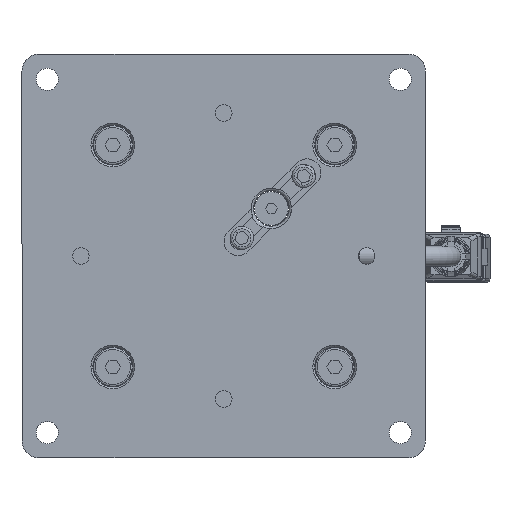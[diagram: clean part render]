
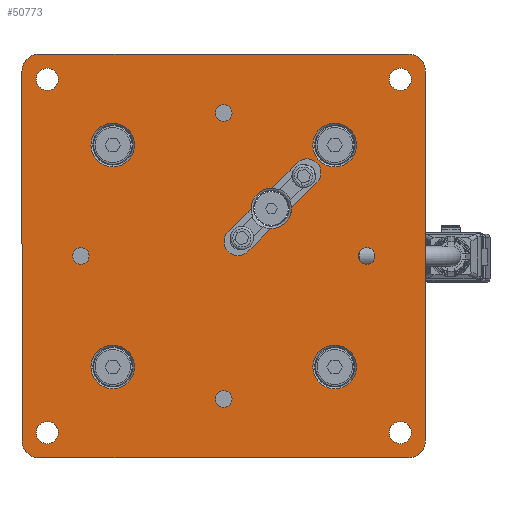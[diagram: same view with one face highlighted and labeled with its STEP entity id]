
A CAD part, top view. The second image highlights one B-rep face of the part: STEP entity #50773.
In plain terms, the highlighted planar face has unit normal (0, 0, 1).
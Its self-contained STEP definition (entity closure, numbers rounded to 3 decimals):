
#1966=CIRCLE('',#53728,6.);
#1992=CIRCLE('',#53758,2.459);
#1993=CIRCLE('',#53759,2.459);
#1994=CIRCLE('',#53760,2.459);
#1995=CIRCLE('',#53761,2.459);
#1996=CIRCLE('',#53762,6.5);
#1997=CIRCLE('',#53763,6.5);
#1998=CIRCLE('',#53764,6.5);
#1999=CIRCLE('',#53765,6.5);
#2000=CIRCLE('',#53766,3.3);
#2001=CIRCLE('',#53767,3.3);
#2002=CIRCLE('',#53768,3.3);
#2003=CIRCLE('',#53769,3.3);
#2004=CIRCLE('',#53770,5.);
#2005=CIRCLE('',#53771,5.);
#2006=CIRCLE('',#53772,5.);
#2007=CIRCLE('',#53773,5.);
#2008=CIRCLE('',#53774,6.);
#2009=CIRCLE('',#53775,4.15);
#2010=CIRCLE('',#53776,4.15);
#6443=ORIENTED_EDGE('',*,*,#17857,.F.);
#6444=ORIENTED_EDGE('',*,*,#17858,.F.);
#6445=ORIENTED_EDGE('',*,*,#17859,.F.);
#6446=ORIENTED_EDGE('',*,*,#17860,.F.);
#6447=ORIENTED_EDGE('',*,*,#17861,.T.);
#6448=ORIENTED_EDGE('',*,*,#17862,.T.);
#6449=ORIENTED_EDGE('',*,*,#17863,.T.);
#6450=ORIENTED_EDGE('',*,*,#17864,.T.);
#6451=ORIENTED_EDGE('',*,*,#17865,.F.);
#6452=ORIENTED_EDGE('',*,*,#17866,.F.);
#6453=ORIENTED_EDGE('',*,*,#17867,.F.);
#6454=ORIENTED_EDGE('',*,*,#17868,.F.);
#6455=ORIENTED_EDGE('',*,*,#17869,.T.);
#6456=ORIENTED_EDGE('',*,*,#17870,.T.);
#6457=ORIENTED_EDGE('',*,*,#17871,.T.);
#6458=ORIENTED_EDGE('',*,*,#17872,.T.);
#6459=ORIENTED_EDGE('',*,*,#17873,.T.);
#6460=ORIENTED_EDGE('',*,*,#17874,.T.);
#6461=ORIENTED_EDGE('',*,*,#17875,.T.);
#6462=ORIENTED_EDGE('',*,*,#17876,.T.);
#6463=ORIENTED_EDGE('',*,*,#17877,.F.);
#6464=ORIENTED_EDGE('',*,*,#17878,.F.);
#6465=ORIENTED_EDGE('',*,*,#17879,.F.);
#6466=ORIENTED_EDGE('',*,*,#17880,.T.);
#6467=ORIENTED_EDGE('',*,*,#17881,.T.);
#6468=ORIENTED_EDGE('',*,*,#17814,.F.);
#6469=ORIENTED_EDGE('',*,*,#17882,.T.);
#6470=ORIENTED_EDGE('',*,*,#17883,.T.);
#17814=EDGE_CURVE('',#23671,#23672,#1966,.T.);
#17857=EDGE_CURVE('',#23711,#23711,#1992,.T.);
#17858=EDGE_CURVE('',#23712,#23712,#1993,.T.);
#17859=EDGE_CURVE('',#23713,#23713,#1994,.T.);
#17860=EDGE_CURVE('',#23714,#23714,#1995,.T.);
#17861=EDGE_CURVE('',#23715,#23715,#1996,.T.);
#17862=EDGE_CURVE('',#23716,#23716,#1997,.T.);
#17863=EDGE_CURVE('',#23717,#23717,#1998,.T.);
#17864=EDGE_CURVE('',#23718,#23718,#1999,.T.);
#17865=EDGE_CURVE('',#23719,#23719,#2000,.T.);
#17866=EDGE_CURVE('',#23720,#23720,#2001,.T.);
#17867=EDGE_CURVE('',#23721,#23721,#2002,.T.);
#17868=EDGE_CURVE('',#23722,#23722,#2003,.T.);
#17869=EDGE_CURVE('',#23723,#23724,#2004,.T.);
#17870=EDGE_CURVE('',#23724,#23725,#27803,.T.);
#17871=EDGE_CURVE('',#23725,#23726,#2005,.T.);
#17872=EDGE_CURVE('',#23726,#23727,#27804,.T.);
#17873=EDGE_CURVE('',#23727,#23728,#2006,.T.);
#17874=EDGE_CURVE('',#23728,#23729,#27805,.T.);
#17875=EDGE_CURVE('',#23729,#23730,#2007,.T.);
#17876=EDGE_CURVE('',#23730,#23723,#27806,.T.);
#17877=EDGE_CURVE('',#23731,#23732,#27807,.T.);
#17878=EDGE_CURVE('',#23733,#23731,#2008,.T.);
#17879=EDGE_CURVE('',#23734,#23733,#27808,.T.);
#17880=EDGE_CURVE('',#23734,#23735,#2009,.T.);
#17881=EDGE_CURVE('',#23735,#23672,#27809,.T.);
#17882=EDGE_CURVE('',#23671,#23736,#27810,.T.);
#17883=EDGE_CURVE('',#23736,#23732,#2010,.T.);
#23671=VERTEX_POINT('',#72271);
#23672=VERTEX_POINT('',#72273);
#23711=VERTEX_POINT('',#72359);
#23712=VERTEX_POINT('',#72361);
#23713=VERTEX_POINT('',#72363);
#23714=VERTEX_POINT('',#72365);
#23715=VERTEX_POINT('',#72367);
#23716=VERTEX_POINT('',#72369);
#23717=VERTEX_POINT('',#72371);
#23718=VERTEX_POINT('',#72373);
#23719=VERTEX_POINT('',#72375);
#23720=VERTEX_POINT('',#72377);
#23721=VERTEX_POINT('',#72379);
#23722=VERTEX_POINT('',#72381);
#23723=VERTEX_POINT('',#72383);
#23724=VERTEX_POINT('',#72384);
#23725=VERTEX_POINT('',#72386);
#23726=VERTEX_POINT('',#72388);
#23727=VERTEX_POINT('',#72390);
#23728=VERTEX_POINT('',#72392);
#23729=VERTEX_POINT('',#72394);
#23730=VERTEX_POINT('',#72396);
#23731=VERTEX_POINT('',#72399);
#23732=VERTEX_POINT('',#72400);
#23733=VERTEX_POINT('',#72402);
#23734=VERTEX_POINT('',#72404);
#23735=VERTEX_POINT('',#72406);
#23736=VERTEX_POINT('',#72409);
#27803=LINE('',#72385,#30858);
#27804=LINE('',#72389,#30859);
#27805=LINE('',#72393,#30860);
#27806=LINE('',#72397,#30861);
#27807=LINE('',#72398,#30862);
#27808=LINE('',#72403,#30863);
#27809=LINE('',#72407,#30864);
#27810=LINE('',#72408,#30865);
#30858=VECTOR('',#59738,1000.);
#30859=VECTOR('',#59741,1000.);
#30860=VECTOR('',#59744,1000.);
#30861=VECTOR('',#59747,1000.);
#30862=VECTOR('',#59748,1000.);
#30863=VECTOR('',#59751,1000.);
#30864=VECTOR('',#59754,1000.);
#30865=VECTOR('',#59755,1000.);
#33680=EDGE_LOOP('',(#6443));
#33681=EDGE_LOOP('',(#6444));
#33682=EDGE_LOOP('',(#6445));
#33683=EDGE_LOOP('',(#6446));
#33684=EDGE_LOOP('',(#6447));
#33685=EDGE_LOOP('',(#6448));
#33686=EDGE_LOOP('',(#6449));
#33687=EDGE_LOOP('',(#6450));
#33688=EDGE_LOOP('',(#6451));
#33689=EDGE_LOOP('',(#6452));
#33690=EDGE_LOOP('',(#6453));
#33691=EDGE_LOOP('',(#6454));
#33692=EDGE_LOOP('',(#6455,#6456,#6457,#6458,#6459,#6460,#6461,#6462));
#33693=EDGE_LOOP('',(#6463,#6464,#6465,#6466,#6467,#6468,#6469,#6470));
#36867=FACE_BOUND('',#33680,.T.);
#36868=FACE_BOUND('',#33681,.T.);
#36869=FACE_BOUND('',#33682,.T.);
#36870=FACE_BOUND('',#33683,.T.);
#36871=FACE_BOUND('',#33684,.T.);
#36872=FACE_BOUND('',#33685,.T.);
#36873=FACE_BOUND('',#33686,.T.);
#36874=FACE_BOUND('',#33687,.T.);
#36875=FACE_BOUND('',#33688,.T.);
#36876=FACE_BOUND('',#33689,.T.);
#36877=FACE_BOUND('',#33690,.T.);
#36878=FACE_BOUND('',#33691,.T.);
#36879=FACE_BOUND('',#33692,.T.);
#36880=FACE_BOUND('',#33693,.T.);
#39874=PLANE('',#53757);
#50773=ADVANCED_FACE('',(#36867,#36868,#36869,#36870,#36871,#36872,#36873,
#36874,#36875,#36876,#36877,#36878,#36879,#36880),#39874,.T.);
#53728=AXIS2_PLACEMENT_3D('',#72272,#59635,#59636);
#53757=AXIS2_PLACEMENT_3D('',#72357,#59710,#59711);
#53758=AXIS2_PLACEMENT_3D('',#72358,#59712,#59713);
#53759=AXIS2_PLACEMENT_3D('',#72360,#59714,#59715);
#53760=AXIS2_PLACEMENT_3D('',#72362,#59716,#59717);
#53761=AXIS2_PLACEMENT_3D('',#72364,#59718,#59719);
#53762=AXIS2_PLACEMENT_3D('',#72366,#59720,#59721);
#53763=AXIS2_PLACEMENT_3D('',#72368,#59722,#59723);
#53764=AXIS2_PLACEMENT_3D('',#72370,#59724,#59725);
#53765=AXIS2_PLACEMENT_3D('',#72372,#59726,#59727);
#53766=AXIS2_PLACEMENT_3D('',#72374,#59728,#59729);
#53767=AXIS2_PLACEMENT_3D('',#72376,#59730,#59731);
#53768=AXIS2_PLACEMENT_3D('',#72378,#59732,#59733);
#53769=AXIS2_PLACEMENT_3D('',#72380,#59734,#59735);
#53770=AXIS2_PLACEMENT_3D('',#72382,#59736,#59737);
#53771=AXIS2_PLACEMENT_3D('',#72387,#59739,#59740);
#53772=AXIS2_PLACEMENT_3D('',#72391,#59742,#59743);
#53773=AXIS2_PLACEMENT_3D('',#72395,#59745,#59746);
#53774=AXIS2_PLACEMENT_3D('',#72401,#59749,#59750);
#53775=AXIS2_PLACEMENT_3D('',#72405,#59752,#59753);
#53776=AXIS2_PLACEMENT_3D('',#72410,#59756,#59757);
#59635=DIRECTION('',(0.,0.,1.));
#59636=DIRECTION('',(1.,0.,0.));
#59710=DIRECTION('',(0.,0.,1.));
#59711=DIRECTION('',(1.,0.,0.));
#59712=DIRECTION('',(0.,0.,1.));
#59713=DIRECTION('',(0.,1.,0.));
#59714=DIRECTION('',(0.,0.,1.));
#59715=DIRECTION('',(0.,1.,0.));
#59716=DIRECTION('',(0.,0.,1.));
#59717=DIRECTION('',(0.,1.,0.));
#59718=DIRECTION('',(0.,0.,1.));
#59719=DIRECTION('',(0.,1.,0.));
#59720=DIRECTION('',(0.,0.,-1.));
#59721=DIRECTION('',(1.,0.,0.));
#59722=DIRECTION('',(0.,0.,-1.));
#59723=DIRECTION('',(1.,0.,0.));
#59724=DIRECTION('',(0.,0.,-1.));
#59725=DIRECTION('',(1.,0.,0.));
#59726=DIRECTION('',(0.,0.,-1.));
#59727=DIRECTION('',(1.,0.,0.));
#59728=DIRECTION('',(0.,0.,1.));
#59729=DIRECTION('',(1.,0.,0.));
#59730=DIRECTION('',(0.,0.,1.));
#59731=DIRECTION('',(1.,0.,0.));
#59732=DIRECTION('',(0.,0.,1.));
#59733=DIRECTION('',(1.,0.,0.));
#59734=DIRECTION('',(0.,0.,1.));
#59735=DIRECTION('',(1.,0.,0.));
#59736=DIRECTION('',(0.,0.,1.));
#59737=DIRECTION('',(1.,0.,0.));
#59738=DIRECTION('',(1.,0.,0.));
#59739=DIRECTION('',(0.,0.,1.));
#59740=DIRECTION('',(-1.,0.,0.));
#59741=DIRECTION('',(0.,1.,0.));
#59742=DIRECTION('',(0.,0.,1.));
#59743=DIRECTION('',(1.,0.,0.));
#59744=DIRECTION('',(-1.,0.,0.));
#59745=DIRECTION('',(0.,0.,1.));
#59746=DIRECTION('',(1.,0.,0.));
#59747=DIRECTION('',(0.,-1.,0.));
#59748=DIRECTION('',(0.707,0.707,0.));
#59749=DIRECTION('',(0.,0.,1.));
#59750=DIRECTION('',(-1.,0.,0.));
#59751=DIRECTION('',(0.707,0.707,0.));
#59752=DIRECTION('',(0.,0.,-1.));
#59753=DIRECTION('',(0.707,-0.707,0.));
#59754=DIRECTION('',(0.707,0.707,0.));
#59755=DIRECTION('',(0.707,0.707,0.));
#59756=DIRECTION('',(0.,0.,-1.));
#59757=DIRECTION('',(-0.707,0.707,0.));
#72271=CARTESIAN_POINT('',(14.272,20.141,8.));
#72272=CARTESIAN_POINT('',(14.142,14.142,8.));
#72273=CARTESIAN_POINT('',(8.144,14.013,8.));
#72357=CARTESIAN_POINT('',(-55.,-55.,8.));
#72358=CARTESIAN_POINT('',(42.5,0.,8.));
#72359=CARTESIAN_POINT('',(42.5,2.459,8.));
#72360=CARTESIAN_POINT('',(0.,42.5,8.));
#72361=CARTESIAN_POINT('',(0.,44.959,8.));
#72362=CARTESIAN_POINT('',(-42.5,0.,8.));
#72363=CARTESIAN_POINT('',(-42.5,2.458,8.));
#72364=CARTESIAN_POINT('',(0.,-42.5,8.));
#72365=CARTESIAN_POINT('',(0.,-40.042,8.));
#72366=CARTESIAN_POINT('',(-33.,-33.,8.));
#72367=CARTESIAN_POINT('',(-26.5,-33.,8.));
#72368=CARTESIAN_POINT('',(33.,-33.,8.));
#72369=CARTESIAN_POINT('',(39.5,-33.,8.));
#72370=CARTESIAN_POINT('',(33.,33.,8.));
#72371=CARTESIAN_POINT('',(39.5,33.,8.));
#72372=CARTESIAN_POINT('',(-33.,33.,8.));
#72373=CARTESIAN_POINT('',(-26.5,33.,8.));
#72374=CARTESIAN_POINT('',(-52.5,-52.5,8.));
#72375=CARTESIAN_POINT('',(-49.2,-52.5,8.));
#72376=CARTESIAN_POINT('',(52.5,-52.5,8.));
#72377=CARTESIAN_POINT('',(55.8,-52.5,8.));
#72378=CARTESIAN_POINT('',(52.5,52.5,8.));
#72379=CARTESIAN_POINT('',(55.8,52.5,8.));
#72380=CARTESIAN_POINT('',(-52.5,52.5,8.));
#72381=CARTESIAN_POINT('',(-49.2,52.5,8.));
#72382=CARTESIAN_POINT('',(-55.,-55.,8.));
#72383=CARTESIAN_POINT('',(-60.,-55.,8.));
#72384=CARTESIAN_POINT('',(-55.,-60.,8.));
#72385=CARTESIAN_POINT('',(-55.,-60.,8.));
#72386=CARTESIAN_POINT('',(55.,-60.,8.));
#72387=CARTESIAN_POINT('',(55.,-55.,8.));
#72388=CARTESIAN_POINT('',(60.,-55.,8.));
#72389=CARTESIAN_POINT('',(60.,-55.,8.));
#72390=CARTESIAN_POINT('',(60.,55.,8.));
#72391=CARTESIAN_POINT('',(55.,55.,8.));
#72392=CARTESIAN_POINT('',(55.,60.,8.));
#72393=CARTESIAN_POINT('',(55.,60.,8.));
#72394=CARTESIAN_POINT('',(-55.,60.,8.));
#72395=CARTESIAN_POINT('',(-55.,55.,8.));
#72396=CARTESIAN_POINT('',(-60.,55.,8.));
#72397=CARTESIAN_POINT('',(-60.,55.,8.));
#72398=CARTESIAN_POINT('',(7.177,1.308,8.));
#72399=CARTESIAN_POINT('',(20.141,14.272,8.));
#72400=CARTESIAN_POINT('',(27.683,21.814,8.));
#72401=CARTESIAN_POINT('',(14.142,14.142,8.));
#72402=CARTESIAN_POINT('',(14.013,8.144,8.));
#72403=CARTESIAN_POINT('',(7.177,1.308,8.));
#72404=CARTESIAN_POINT('',(7.177,1.308,8.));
#72405=CARTESIAN_POINT('',(4.243,4.243,8.));
#72406=CARTESIAN_POINT('',(1.308,7.177,8.));
#72407=CARTESIAN_POINT('',(1.308,7.177,8.));
#72408=CARTESIAN_POINT('',(1.308,7.177,8.));
#72409=CARTESIAN_POINT('',(21.814,27.683,8.));
#72410=CARTESIAN_POINT('',(24.749,24.749,8.));
